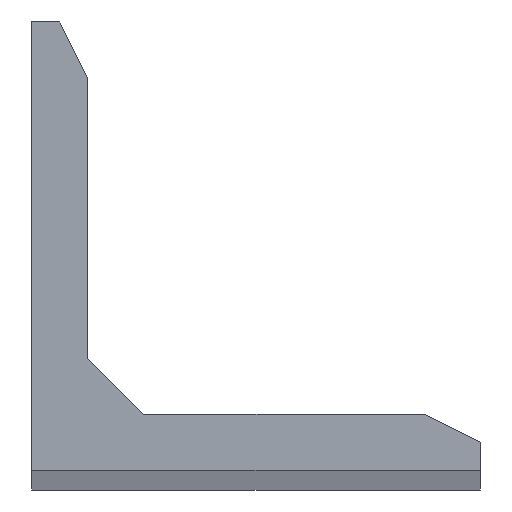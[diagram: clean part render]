
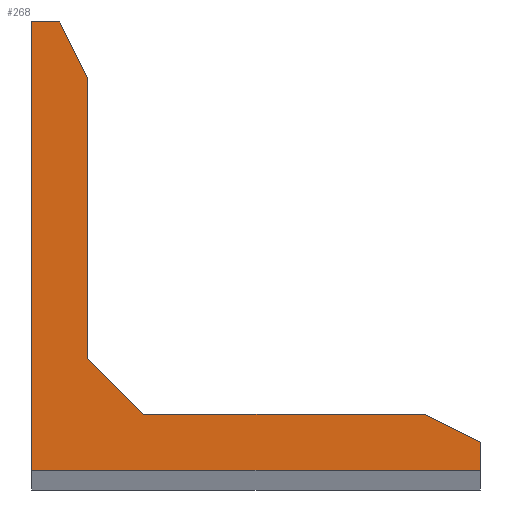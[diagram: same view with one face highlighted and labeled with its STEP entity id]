
A CAD part, top view. The second image highlights one B-rep face of the part: STEP entity #268.
In plain terms, the highlighted planar face has unit normal (0, 0, 1).
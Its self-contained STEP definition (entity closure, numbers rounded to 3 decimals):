
#5 = VECTOR ( 'NONE', #269, 1000. ) ;
#8 = VECTOR ( 'NONE', #171, 1000. ) ;
#13 = CARTESIAN_POINT ( 'NONE',  ( 0., -40., 0. ) ) ;
#14 = EDGE_CURVE ( 'NONE', #236, #298, #326, .T. ) ;
#17 = DIRECTION ( 'NONE',  ( 0., 0., 1. ) ) ;
#22 = VECTOR ( 'NONE', #192, 1000. ) ;
#31 = EDGE_CURVE ( 'NONE', #176, #337, #321, .T. ) ;
#34 = VECTOR ( 'NONE', #251, 1000. ) ;
#47 = LINE ( 'NONE', #96, #339 ) ;
#59 = CARTESIAN_POINT ( 'NONE',  ( 10., -35., 0. ) ) ;
#61 = EDGE_CURVE ( 'NONE', #105, #128, #264, .T. ) ;
#62 = CARTESIAN_POINT ( 'NONE',  ( 40., -37.5, 0. ) ) ;
#66 = ORIENTED_EDGE ( 'NONE', *, *, #61, .T. ) ;
#70 = VERTEX_POINT ( 'NONE', #135 ) ;
#71 = CARTESIAN_POINT ( 'NONE',  ( 0., -40., 0. ) ) ;
#72 = ORIENTED_EDGE ( 'NONE', *, *, #319, .T. ) ;
#84 = DIRECTION ( 'NONE',  ( 0., -1., 0. ) ) ;
#90 = LINE ( 'NONE', #13, #34 ) ;
#91 = EDGE_CURVE ( 'NONE', #298, #352, #90, .T. ) ;
#96 = CARTESIAN_POINT ( 'NONE',  ( 40., -40., 0. ) ) ;
#105 = VERTEX_POINT ( 'NONE', #62 ) ;
#107 = ORIENTED_EDGE ( 'NONE', *, *, #31, .T. ) ;
#109 = CARTESIAN_POINT ( 'NONE',  ( 2., 1., 0. ) ) ;
#127 = FACE_OUTER_BOUND ( 'NONE', #290, .T. ) ;
#128 = VERTEX_POINT ( 'NONE', #336 ) ;
#130 = ORIENTED_EDGE ( 'NONE', *, *, #183, .T. ) ;
#131 = CARTESIAN_POINT ( 'NONE',  ( -7., -14., 0. ) ) ;
#135 = CARTESIAN_POINT ( 'NONE',  ( 10., -35., 0. ) ) ;
#137 = CARTESIAN_POINT ( 'NONE',  ( 5., 0., 0. ) ) ;
#139 = LINE ( 'NONE', #329, #245 ) ;
#145 = DIRECTION ( 'NONE',  ( -0.447, 0.894, 0. ) ) ;
#148 = ORIENTED_EDGE ( 'NONE', *, *, #14, .T. ) ;
#150 = CARTESIAN_POINT ( 'NONE',  ( 0., 0., 0. ) ) ;
#164 = DIRECTION ( 'NONE',  ( 0., 1., 0. ) ) ;
#167 = CARTESIAN_POINT ( 'NONE',  ( 2.5, 0., 0. ) ) ;
#171 = DIRECTION ( 'NONE',  ( -1., 0., 0. ) ) ;
#176 = VERTEX_POINT ( 'NONE', #199 ) ;
#179 = ORIENTED_EDGE ( 'NONE', *, *, #347, .T. ) ;
#180 = ORIENTED_EDGE ( 'NONE', *, *, #91, .T. ) ;
#181 = PLANE ( 'NONE',  #266 ) ;
#183 = EDGE_CURVE ( 'NONE', #128, #70, #139, .T. ) ;
#184 = CARTESIAN_POINT ( 'NONE',  ( 0., 0., 0. ) ) ;
#192 = DIRECTION ( 'NONE',  ( -0.707, 0.707, 0. ) ) ;
#193 = LINE ( 'NONE', #109, #233 ) ;
#198 = CARTESIAN_POINT ( 'NONE',  ( 5., -5., 0. ) ) ;
#199 = CARTESIAN_POINT ( 'NONE',  ( 5., -30., 0. ) ) ;
#200 = DIRECTION ( 'NONE',  ( -1., 0., 0. ) ) ;
#215 = CARTESIAN_POINT ( 'NONE',  ( 0., 0., 0. ) ) ;
#216 = LINE ( 'NONE', #59, #22 ) ;
#233 = VECTOR ( 'NONE', #145, 1000. ) ;
#236 = VERTEX_POINT ( 'NONE', #150 ) ;
#244 = VECTOR ( 'NONE', #164, 1000. ) ;
#245 = VECTOR ( 'NONE', #200, 1000. ) ;
#251 = DIRECTION ( 'NONE',  ( 1., 0., 0. ) ) ;
#259 = DIRECTION ( 'NONE',  ( 0., 1., 0. ) ) ;
#263 = ORIENTED_EDGE ( 'NONE', *, *, #338, .T. ) ;
#264 = LINE ( 'NONE', #131, #5 ) ;
#266 = AXIS2_PLACEMENT_3D ( 'NONE', #184, #17, #314 ) ;
#268 = ADVANCED_FACE ( 'NONE', ( #127 ), #181, .T. ) ;
#269 = DIRECTION ( 'NONE',  ( -0.894, 0.447, 0. ) ) ;
#275 = EDGE_CURVE ( 'NONE', #352, #105, #47, .T. ) ;
#290 = EDGE_LOOP ( 'NONE', ( #344, #66, #130, #179, #107, #263, #72, #148, #180 ) ) ;
#295 = VECTOR ( 'NONE', #84, 1000. ) ;
#298 = VERTEX_POINT ( 'NONE', #71 ) ;
#300 = CARTESIAN_POINT ( 'NONE',  ( 40., -40., 0. ) ) ;
#314 = DIRECTION ( 'NONE',  ( 1., 0., 0. ) ) ;
#316 = VERTEX_POINT ( 'NONE', #167 ) ;
#319 = EDGE_CURVE ( 'NONE', #316, #236, #330, .T. ) ;
#321 = LINE ( 'NONE', #324, #244 ) ;
#324 = CARTESIAN_POINT ( 'NONE',  ( 5., -35., 0. ) ) ;
#326 = LINE ( 'NONE', #215, #295 ) ;
#329 = CARTESIAN_POINT ( 'NONE',  ( 40., -35., 0. ) ) ;
#330 = LINE ( 'NONE', #137, #8 ) ;
#336 = CARTESIAN_POINT ( 'NONE',  ( 35., -35., 0. ) ) ;
#337 = VERTEX_POINT ( 'NONE', #198 ) ;
#338 = EDGE_CURVE ( 'NONE', #337, #316, #193, .T. ) ;
#339 = VECTOR ( 'NONE', #259, 1000. ) ;
#344 = ORIENTED_EDGE ( 'NONE', *, *, #275, .T. ) ;
#347 = EDGE_CURVE ( 'NONE', #70, #176, #216, .T. ) ;
#352 = VERTEX_POINT ( 'NONE', #300 ) ;
